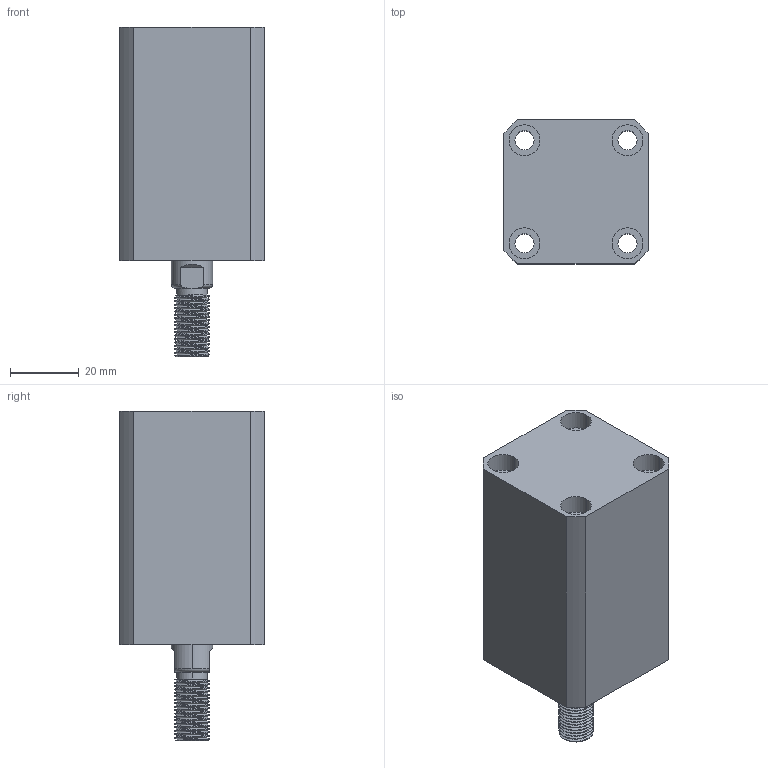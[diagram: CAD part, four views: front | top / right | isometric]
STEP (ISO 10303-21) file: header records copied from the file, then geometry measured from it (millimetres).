
FILE_DESCRIPTION (( 'STEP AP214' ), '1' );
FILE_NAME ('chtb-sd20x25w_asm.STEP', '2018-05-16T09:25:40', ( 'Windows' ), ( 'Microsoft' ), 'SwSTEP 2.0', 'SolidWorks 2015', '' );
FILE_SCHEMA (( 'AUTOMOTIVE_DESIGN' ));
Length unit declared in the file: millimetre
Products named in the file (4): QG; CHTB-SD20X25WHSG; CHTB-SD20X25NBT; chtb-sd20x25w_asm
Assembly tree (3 placements, depth 2):
  chtb-sd20x25w_asm
    CHTB-SD20X25NBT
    CHTB-SD20X25WHSG
    QG
Bounding box: 42 x 42 x 96 mm (x, y, z)
Volume: 103814.5 mm3; surface area: 33522.8 mm2
Topology: 3 solids, 3 shells, 234 faces, 624 edges, 415 vertices
Faces by surface type: cylinder 139, plane 40, torus 25, bspline 21, cone 9
Entity records: 13734 total; most frequent: CARTESIAN_POINT 8172, ORIENTED_EDGE 1240, DIRECTION 1039, EDGE_CURVE 620, AXIS2_PLACEMENT_3D 431, VERTEX_POINT 415, EDGE_LOOP 271, FACE_OUTER_BOUND 234
